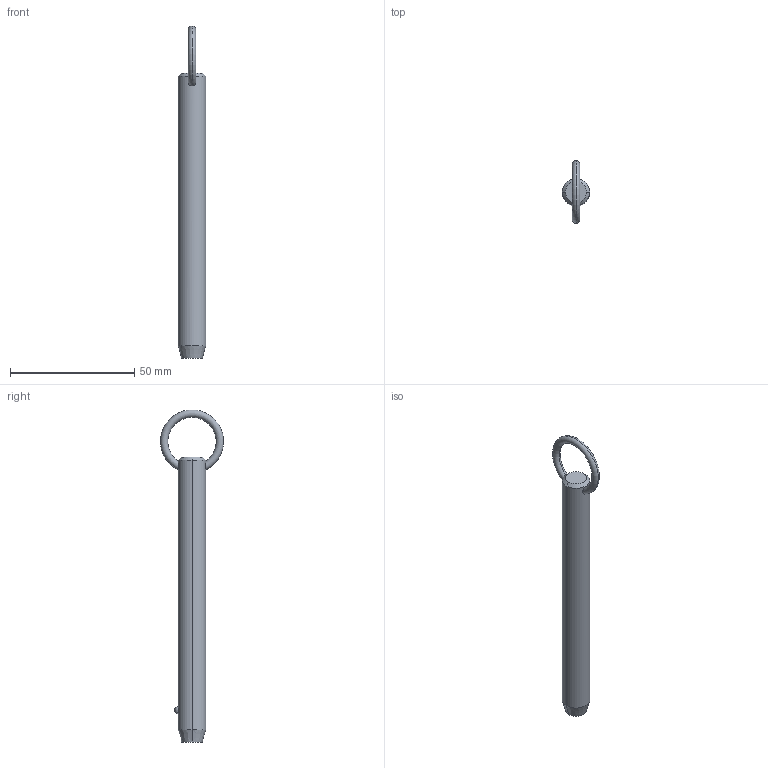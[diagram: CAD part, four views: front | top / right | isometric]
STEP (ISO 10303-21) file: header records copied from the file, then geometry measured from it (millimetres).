
FILE_DESCRIPTION (( 'STEP AP203' ), '1' );
FILE_NAME ('P1250.050-370.step', '2019-07-29T20:35:24', ( '' ), ( '' ), 'SwSTEP 2.0', 'SolidWorks 2017', '' );
FILE_SCHEMA (( 'CONFIG_CONTROL_DESIGN' ));
Length unit declared in the file: millimetre
Products named in the file (1): P1250.050-370
Bounding box: 11.1 x 25.32 x 133.55 mm (x, y, z)
Volume: 11372.4 mm3; surface area: 4648.9 mm2
Topology: 1 solids, 1 shells, 12 faces, 28 edges, 17 vertices
Faces by surface type: cone 4, torus 2, sphere 2, cylinder 2, plane 2
Entity records: 523 total; most frequent: CARTESIAN_POINT 190, DIRECTION 56, ORIENTED_EDGE 48, AXIS2_PLACEMENT_3D 25, EDGE_CURVE 24, VERTEX_POINT 15, EDGE_LOOP 15, CIRCLE 12
